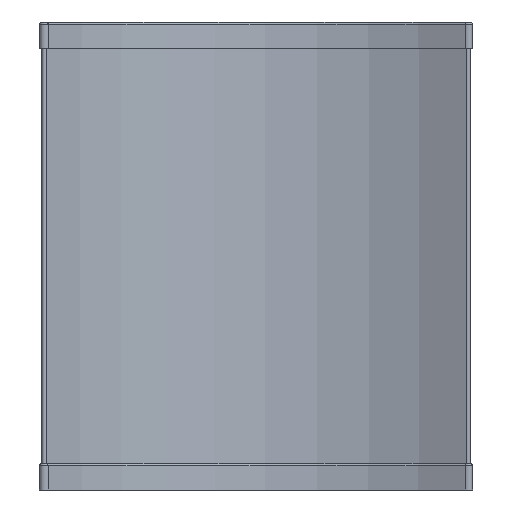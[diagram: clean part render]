
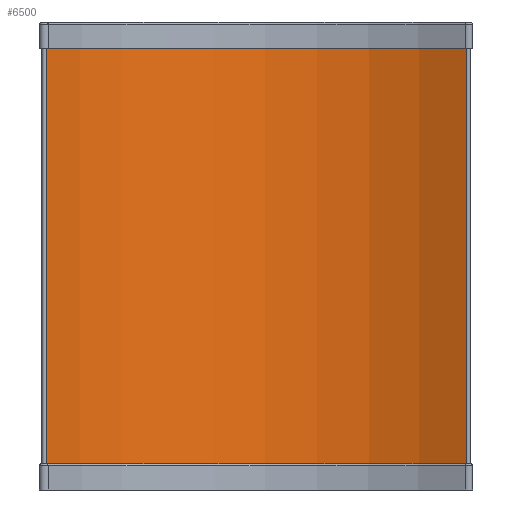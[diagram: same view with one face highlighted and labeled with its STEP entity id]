
A CAD part, left-side view. The second image highlights one B-rep face of the part: STEP entity #6500.
In plain terms, the highlighted cylindrical face has radius 272 mm (diameter 544 mm), a partial arc.
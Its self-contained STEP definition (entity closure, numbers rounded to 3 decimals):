
#126=CYLINDRICAL_SURFACE('',#6952,272.);
#161=CIRCLE('',#6929,272.);
#173=CIRCLE('',#6953,272.);
#232=LINE('',#10580,#599);
#241=LINE('',#10602,#608);
#599=VECTOR('',#7410,1000.);
#608=VECTOR('',#7435,1000.);
#1355=ORIENTED_EDGE('',*,*,#3323,.T.);
#1356=ORIENTED_EDGE('',*,*,#3335,.F.);
#1357=ORIENTED_EDGE('',*,*,#3348,.F.);
#1358=ORIENTED_EDGE('',*,*,#3346,.T.);
#3323=EDGE_CURVE('',#4330,#4327,#161,.T.);
#3335=EDGE_CURVE('',#4335,#4327,#232,.T.);
#3346=EDGE_CURVE('',#4341,#4330,#241,.T.);
#3348=EDGE_CURVE('',#4341,#4335,#173,.T.);
#4327=VERTEX_POINT('',#10548);
#4330=VERTEX_POINT('',#10558);
#4335=VERTEX_POINT('',#10579);
#4341=VERTEX_POINT('',#10603);
#5343=EDGE_LOOP('',(#1355,#1356,#1357,#1358));
#5806=FACE_BOUND('',#5343,.T.);
#6500=ADVANCED_FACE('',(#5806),#126,.F.);
#6929=AXIS2_PLACEMENT_3D('',#10557,#7379,#7380);
#6952=AXIS2_PLACEMENT_3D('',#10605,#7438,#7439);
#6953=AXIS2_PLACEMENT_3D('',#10606,#7440,#7441);
#7379=DIRECTION('',(0.,0.,-1.));
#7380=DIRECTION('',(-1.,0.,0.));
#7410=DIRECTION('',(0.,0.,-1.));
#7435=DIRECTION('',(0.,0.,-1.));
#7438=DIRECTION('',(0.,0.,-1.));
#7439=DIRECTION('',(-1.,0.,0.));
#7440=DIRECTION('',(0.,0.,-1.));
#7441=DIRECTION('',(-1.,0.,0.));
#10548=CARTESIAN_POINT('',(239.993,-452.379,22.));
#10557=CARTESIAN_POINT('',(1.59,-321.429,22.));
#10558=CARTESIAN_POINT('',(163.622,-102.959,22.));
#10579=CARTESIAN_POINT('',(239.993,-452.379,367.));
#10580=CARTESIAN_POINT('',(239.993,-452.379,367.));
#10602=CARTESIAN_POINT('',(163.622,-102.959,367.));
#10603=CARTESIAN_POINT('',(163.622,-102.959,367.));
#10605=CARTESIAN_POINT('',(1.59,-321.429,367.));
#10606=CARTESIAN_POINT('',(1.59,-321.429,367.));
